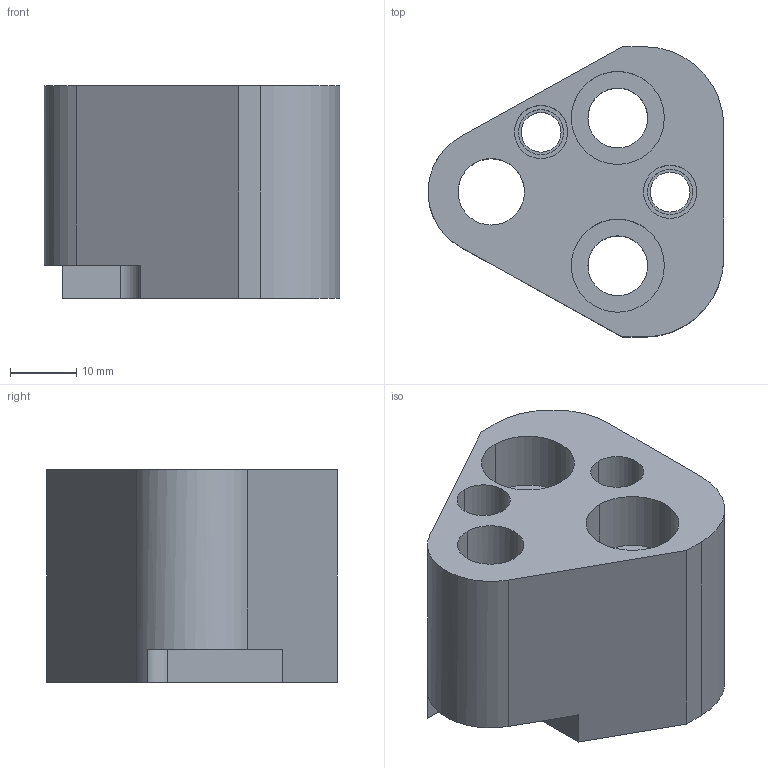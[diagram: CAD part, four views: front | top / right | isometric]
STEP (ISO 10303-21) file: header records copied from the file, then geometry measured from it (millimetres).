
FILE_DESCRIPTION(/* description */ (''),/* implementation_level */ '2;1');
FILE_NAME(/* name */ '3d_crn-f10_03644_r00.stp',/* time_stamp */ '2011-01-10T14:16:22+09:00',/* author */ ('MISUMI'),/* organization */ (''),/* preprocessor_version */ 'ST-DEVELOPER v11',/* originating_system */ 'UGS - NX 5.0',/* authorisation */ '');
FILE_SCHEMA (('CONFIG_CONTROL_DESIGN'));
Length unit declared in the file: millimetre
Products named in the file (1): 3d_crn-f10_03644_r00
Bounding box: 44.49 x 43.7 x 32 mm (x, y, z)
Volume: 33146.4 mm3; surface area: 11115.8 mm2
Topology: 1 solids, 1 shells, 44 faces, 110 edges, 73 vertices
Faces by surface type: cylinder 26, plane 16, cone 2
Entity records: 1451 total; most frequent: DIRECTION 255, CARTESIAN_POINT 233, ORIENTED_EDGE 220, EDGE_CURVE 110, AXIS2_PLACEMENT_3D 101, VERTEX_POINT 73, EDGE_LOOP 59, CIRCLE 56
